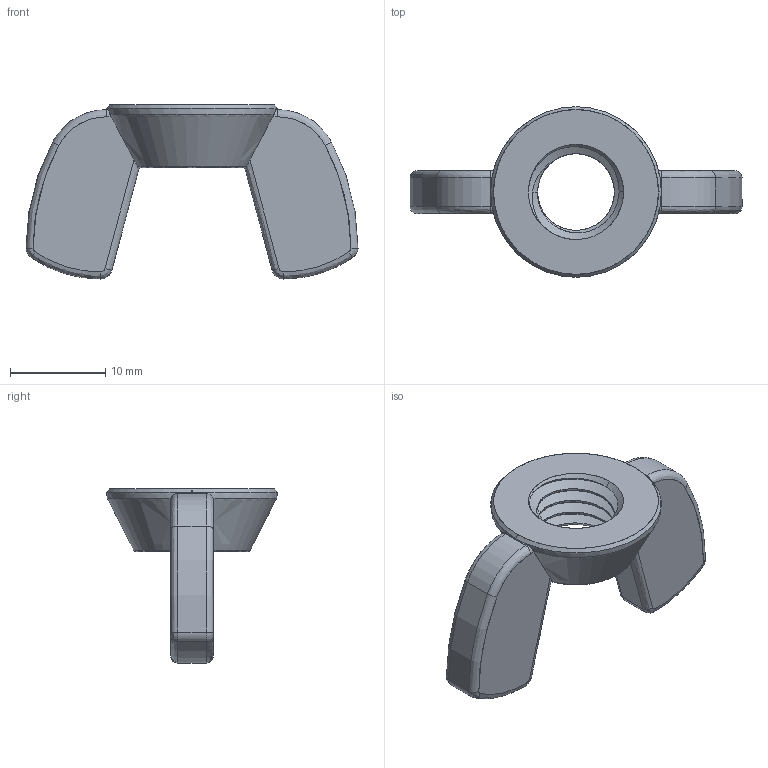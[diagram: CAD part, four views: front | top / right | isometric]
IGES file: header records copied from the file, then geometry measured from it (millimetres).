
Start section: SolidWorks IGES file using analytic representation for surfaces
Global section: file name: C:\Users\Home\Desktop\Wing Nuts Metric\WING NUT M10 x 1.5mm Thread.IGS; native system: SolidWorks 2014; preprocessor: SolidWorks 2014; author: Home; date: 170501.210326; units: millimetre
Bounding box: 34.9 x 17.94 x 18.3 mm (x, y, z)
Surface area: 1725.1 mm2 (no closed solid volume)
Topology: 0 solids, 0 shells, 81 faces, 1190 edges, 1190 vertices
Faces by surface type: revolution 47, bspline 34
